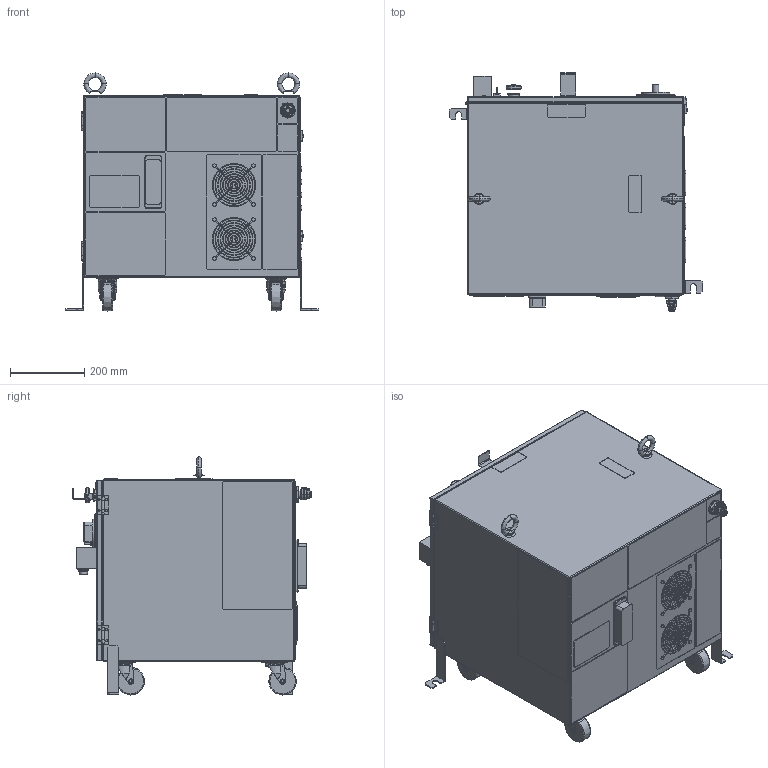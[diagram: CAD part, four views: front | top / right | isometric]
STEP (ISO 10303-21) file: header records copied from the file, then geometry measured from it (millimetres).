
FILE_DESCRIPTION(/* description */ (''),/* implementation_level */ '2;1');
FILE_NAME(/* name */ 'FD20-CE with casters.step',/* time_stamp */ '2022-11-24T12:08:59+03:00',/* author */ (''),/* organization */ (''),/* preprocessor_version */ 'ST-DEVELOPER v19.2',/* originating_system */ 'Autodesk Translation Framework v11.17.0.187',/* authorisation */ '');
FILE_SCHEMA (('AUTOMOTIVE_DESIGN { 1 0 10303 214 3 1 1 }'));
Products named in the file (1): FD20-CE with casters
Bounding box: 681.2 x 642 x 640 mm (x, y, z)
Volume: 153042433.1 mm3; surface area: 2188595.2 mm2
Topology: 53 solids, 53 shells, 2021 faces, 5314 edges, 3384 vertices
Faces by surface type: plane 1153, cylinder 522, bspline 311, cone 29, torus 4, sphere 2
Full cylindrical faces by diameter (mm): 3 x7, 3.3 x6, 5 x8, 7.227 x2, 8 x8, 8.8 x16, 11 x1, 12 x7, 14 x2, 14.55 x1, 14.6 x1, 14.7 x1, 14.701 x2, 15.4 x1, 15.7 x1, 15.8 x1, 16 x13, 16.7 x1, 16.8 x2, 17 x1, 17.4 x1, 18 x7, 19 x1, 20.4 x2, 22 x1, 22.3 x1, 22.6 x1, 22.8 x4, 24 x3, 27 x1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
Entity records: 84264 total; most frequent: CARTESIAN_POINT 34462, ORIENTED_EDGE 10440, DIRECTION 10215, EDGE_CURVE 5220, AXIS2_PLACEMENT_3D 3639, VERTEX_POINT 3384, LINE 2937, VECTOR 2937
